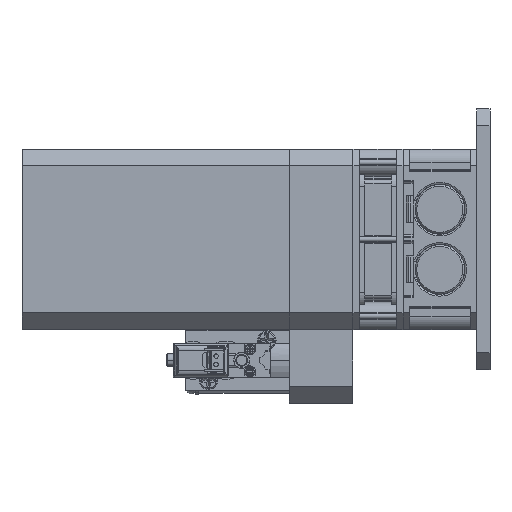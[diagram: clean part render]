
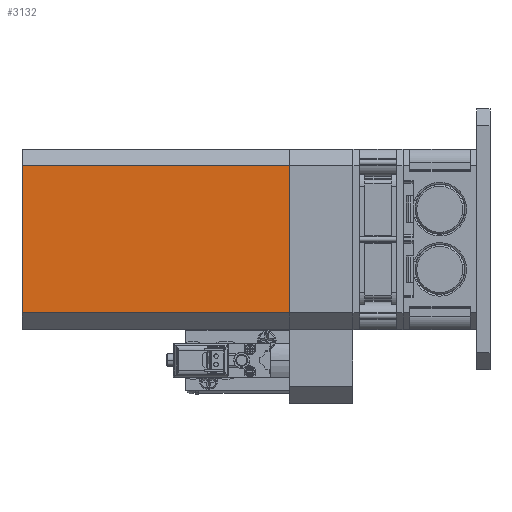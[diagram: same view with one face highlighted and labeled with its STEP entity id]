
A CAD part, left-side view. The second image highlights one B-rep face of the part: STEP entity #3132.
In plain terms, the highlighted planar face has unit normal (-1, 0, 0).
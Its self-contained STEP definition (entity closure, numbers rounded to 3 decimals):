
#3132=ADVANCED_FACE('',(#7144),#7145,.F.);
#7144=FACE_OUTER_BOUND('',#12000,.T.);
#7145=PLANE('',#12001);
#12000=EDGE_LOOP('',(#27256,#27257,#27258,#27259));
#12001=AXIS2_PLACEMENT_3D('',#27260,#27261,#27262);
#27256=ORIENTED_EDGE('',*,*,#36919,.T.);
#27257=ORIENTED_EDGE('',*,*,#36920,.T.);
#27258=ORIENTED_EDGE('',*,*,#36921,.F.);
#27259=ORIENTED_EDGE('',*,*,#36922,.F.);
#27260=CARTESIAN_POINT('',(-32.2,80.0,-22.0));
#27261=DIRECTION('',(1.0,0.0,0.0));
#27262=DIRECTION('',(0.0,1.0,0.0));
#36919=EDGE_CURVE('',#46029,#46030,#46031,.T.);
#36920=EDGE_CURVE('',#46030,#46032,#46033,.T.);
#36921=EDGE_CURVE('',#46034,#46032,#46035,.T.);
#36922=EDGE_CURVE('',#46029,#46034,#46036,.T.);
#46029=VERTEX_POINT('',#60311);
#46030=VERTEX_POINT('',#60312);
#46031=LINE('',#60313,#60314);
#46032=VERTEX_POINT('',#60315);
#46033=LINE('',#60316,#60317);
#46034=VERTEX_POINT('',#60318);
#46035=LINE('',#60319,#60320);
#46036=LINE('',#60321,#60322);
#60311=CARTESIAN_POINT('',(-32.2,80.0,-22.0));
#60312=CARTESIAN_POINT('',(-32.2,0.,-22.0));
#60313=CARTESIAN_POINT('',(-32.2,80.0,-22.0));
#60314=VECTOR('',#70976,1.0);
#60315=CARTESIAN_POINT('',(-32.2,0.,22.0));
#60316=CARTESIAN_POINT('',(-32.2,0.,-22.0));
#60317=VECTOR('',#70977,1.0);
#60318=CARTESIAN_POINT('',(-32.2,80.0,22.0));
#60319=CARTESIAN_POINT('',(-32.2,80.0,22.0));
#60320=VECTOR('',#70978,1.0);
#60321=CARTESIAN_POINT('',(-32.2,80.0,-22.0));
#60322=VECTOR('',#70979,1.0);
#70976=DIRECTION('',(0.0,-1.0,0.0));
#70977=DIRECTION('',(0.0,0.0,1.0));
#70978=DIRECTION('',(0.0,-1.0,0.0));
#70979=DIRECTION('',(0.0,0.0,1.0));
